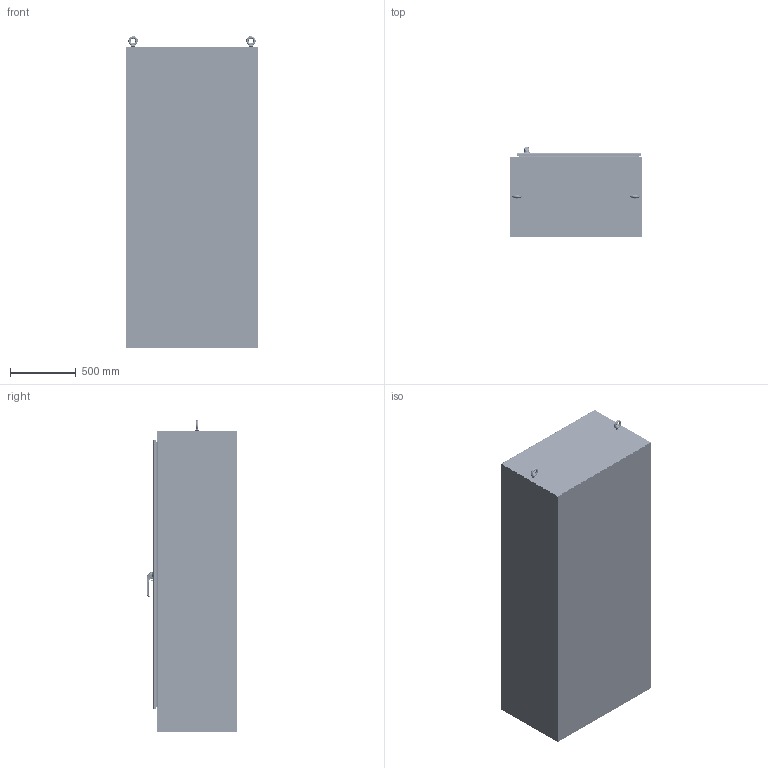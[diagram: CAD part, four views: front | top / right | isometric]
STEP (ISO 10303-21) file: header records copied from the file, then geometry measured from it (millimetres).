
FILE_DESCRIPTION((''),'2;1');
FILE_NAME('MODEL-217_ASM','2021-06-14T13:03:52',('mikek'),('SAGINAW CONTROL & ENGINEERING'),'CREO PARAMETRIC BY PTC INC, 2017260','CREO PARAMETRIC BY PTC INC, 2017260','');
FILE_SCHEMA(('AUTOMOTIVE_DESIGN { 1 0 10303 214 1 1 1 1 }'));
Length unit declared in the file: inch
Products named in the file (60): MODEL-217-R-SD; MODEL-217-BTM; MODEL-217-TP; MODEL-217-BCK; MODEL-217-L-SD; MODEL-217-DR; 100837; 111267; 100882; 100952_HANDLE; 100952_HANDLE_INSERT; 100952_SHAFT_CAM; 100952_ADAPTER_CAM; 100952_NUT_CAM; 100952_BASE; 100952_O-RING; 100952_WASHER_SEALING; 100952_NUT_MOUNTING_LARGE; 100952_NUT_MOUNTING_SMALL; 100952_SCREW_SMALL; 100952_INSERT; 100952_PADLOCK_CATCH; 100952_ASM; 102237; 100030; 102237_ASM; MODEL-217-ROD-UPR; 128146; 128145; 128144; 102482; MODEL-217-ROD-UPR_ASM; 128143; 112504; MODEL-217-ROD-LWR; MODEL-217-ROD-LWR_ASM; MODEL-217-PR-GSKT; 128257; 126397; 128257_ASM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
Assembly tree (121 placements, depth 4):
  MODEL-217_ASM
    MODEL-217-R-SD
    MODEL-217-BTM
    MODEL-217-TP
    MODEL-217-BCK
    MODEL-217-L-SD
    MODEL-217-DOOR-ASSY_ASM
      MODEL-217-DR
      100837  x7
      111267
      100882  x12
      100952_ASM
        100952_HANDLE
        100952_HANDLE_INSERT
        100952_SHAFT_CAM
        100952_ADAPTER_CAM
        100952_NUT_CAM
        100952_BASE
        100952_O-RING
        100952_WASHER_SEALING
        100952_NUT_MOUNTING_LARGE
        100952_NUT_MOUNTING_SMALL
        100952_SCREW_SMALL
        100952_INSERT
        100952_PADLOCK_CATCH
      102237_ASM
        102237
        100030  x2
      MODEL-217-ROD-UPR_ASM
        MODEL-217-ROD-UPR
        128146
        128145
        128144
        102482  x2
      128143  x2
      112504  x2
      MODEL-217-ROD-LWR_ASM
        MODEL-217-ROD-LWR
        128146
        128145
        128144
        102482  x2
      MODEL-217-PR-GSKT
      128257_ASM  x4
        128257
        126397
      126393  x4
      102483  x4
      101369_ASM  x4
        101369
        101369-STUD
      101221  x4
    100837  x2
    101653  x8
    MODEL-217-SUBPNL
    100904  x8
    102238  x2
    MODEL-217-TP-BB
    MODEL-217-BTM-BB
    102254  x2
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Bounding box: 1003.3 x 686.47 x 2365.04 mm (x, y, z)
Volume: 35733059.5 mm3; surface area: 22970628.9 mm2
Topology: 124 solids, 124 shells, 10327 faces, 26719 edges, 16658 vertices
Faces by surface type: plane 3578, cylinder 2689, bspline 2449, torus 690, cone 657, sphere 264
Entity records: 238514 total; most frequent: CARTESIAN_POINT 80886, ORIENTED_EDGE 22962, DIRECTION 21171, PRESENTATION_STYLE_ASSIGNMENT 12002, STYLED_ITEM 11801, EDGE_CURVE 11481, CURVE_STYLE 11469, AXIS2_PLACEMENT_3D 7930
